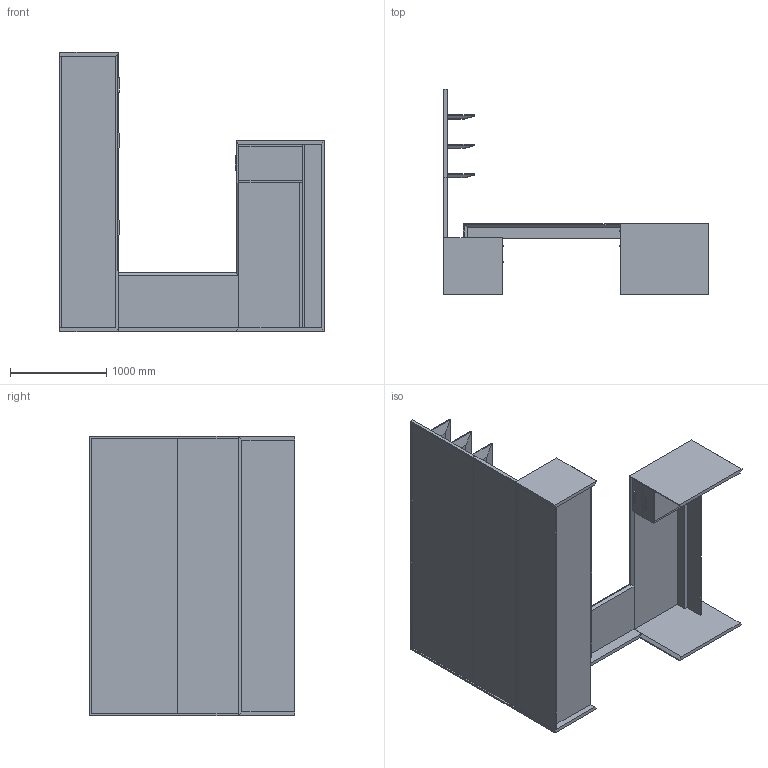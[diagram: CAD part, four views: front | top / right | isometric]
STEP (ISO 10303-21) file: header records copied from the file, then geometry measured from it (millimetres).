
FILE_DESCRIPTION(/* description */ ('','CAx-IF Rec.Pracs.---Representation and Presentation of Product Manufacturing Information (PMI)---4.0---2014-10-13'),/* implementation_level */ '2;1');
FILE_NAME(/* name */ 'AERO^PO4.stp',/* time_stamp */ '2024-12-05T16:29:13-05:00',/* author */ ('mbowman'),/* organization */ (''),/* preprocessor_version */ 'ST-DEVELOPER v19.2',/* originating_system */ 'Autodesk Inventor 2023',/* authorisation */ '');
FILE_SCHEMA (('AP242_MANAGED_MODEL_BASED_3D_ENGINEERING_MIM_LF { 1 0 10303 442 1 1 4 }'));
Length unit declared in the file: inch
Products named in the file (7): AERO^OFFICE 4_114x120 U SHAPE FIXED DESK RT-SOLIDS ASSEMBLY; AERO^OFFICE 4_36x78 DESK PED RT HALF MOD-PARTS SOLID; AERO^OFFICE 4_24x66 BRIDGE LT-PARTS SOLID; AERO^OFFICE 4_120 CREDENZA LEFT-PARTS SOLID; H-Q-PULLNEW; AERO^OFFICE 4_114 WALL HUNG-FULL TACK; AERO^OFFICE 4_120 WALL HUNG-SHELF
Assembly tree (12 placements, depth 2):
  AERO^OFFICE 4_114x120 U SHAPE FIXED DESK RT-SOLIDS ASSEMBLY
    AERO^OFFICE 4_36x78 DESK PED RT HALF MOD-PARTS SOLID
    AERO^OFFICE 4_24x66 BRIDGE LT-PARTS SOLID
    AERO^OFFICE 4_120 CREDENZA LEFT-PARTS SOLID
    H-Q-PULLNEW  x7
    AERO^OFFICE 4_114 WALL HUNG-FULL TACK
    AERO^OFFICE 4_120 WALL HUNG-SHELF
Bounding box: 2743.2 x 2127.25 x 2895.6 mm (x, y, z)
Volume: 554098899.6 mm3; surface area: 44922136.9 mm2
Topology: 45 solids, 45 shells, 332 faces, 703 edges, 461 vertices
Faces by surface type: plane 290, cone 14, cylinder 14, bspline 14
Full cylindrical faces by diameter (mm): 3.962 x14
Entity records: 9076 total; most frequent: CARTESIAN_POINT 1939, DIRECTION 1204, ORIENTED_EDGE 1138, EDGE_CURVE 569, LINE 562, VECTOR 562, STYLED_ITEM 439, VERTEX_POINT 377
